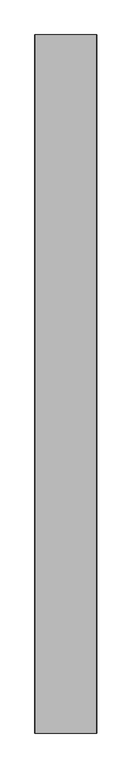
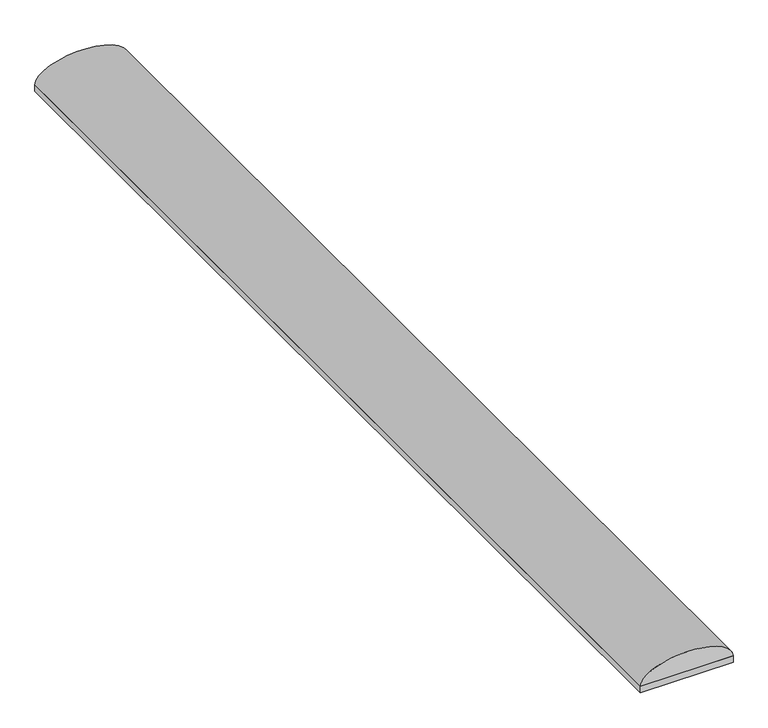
"""IFC4 building model written with IfcOpenShell, lengths in millimetres: proxy geometry, Spinneybeck_ARO Plank 1 : E - 10 1/4 in (26.0 cm)."""

from ifc_helpers import new_model, si_unit, point, frame, origin, origin_with_axes, place, context, project, spatial, polyline, ellipse_curve, trimmed, outline, extrude, source, transform, mapped, element, save
from ifc_brep_helpers import plane_surface, extruded_surface, advanced_brep


def specialty_equipment_eae570ff(model_context):
    return source(origin(), model_context, "Body", "SolidModel", [
        advanced_brep(
        [(130.175, 2946.4, 19.05), (-130.175, 2946.4, 19.05), (130.175, 0.0, 19.05), (-130.175, 0.0, 19.05)],
        [
            (0, 1),
            (1, 0, ellipse_curve(frame((0.0, 2946.4, 19.05), z_axis=(0.0, 1.0, 0.0), x_axis=(-1.0, 0.0, 0.0)), 130.175, 57.15)),
            (2, 3, ellipse_curve(frame((0.0, 0.0, 19.05), z_axis=(0.0, -1.0, 0.0), x_axis=(-1.0, 0.0, 0.0)), 130.175, 57.15)),
            (3, 2),
            (0, 2),
            (3, 1),
        ],
        [
            plane_surface(frame((0.0, 2946.4, 0.0), z_axis=(0.0, 1.0, 0.0), x_axis=(0.0, 0.0, 1.0))),
            plane_surface(frame((0.0, 0.0, 0.0), z_axis=(0.0, -1.0, 0.0), x_axis=(0.0, 0.0, 1.0))),
            plane_surface(frame((130.175, 2946.4, 19.05), z_axis=(0.0, 0.0, -1.0), x_axis=(0.0, -1.0, 0.0))),
            extruded_surface(trimmed(ellipse_curve(frame((0.0, 0.0, 19.05), z_axis=(0.0, 1.0, 0.0), x_axis=(-1.0, 0.0, 0.0)), 130.175, 57.15), [point((-130.175, 0.0, 19.05))], [point((130.175, 0.0, 19.05))], True, "CARTESIAN"), (0.0, 2946.4, 0.0), 2946.4),
        ],
        [
            (0, [[1, 2]]),
            (1, [[3, 4]]),
            (2, [[-1, 5, -4, 6]]),
            (3, [[-2, -6, -3, -5]]),
        ],
    ),
        extrude(outline(polyline([(-130.175, 2946.4), (130.175, 2946.4), (130.175, 0.0), (-130.175, 0.0), (-130.175, 2946.4)])), origin_with_axes(), (0.0, 0.0, 1.0), 19.05),
    ])


if __name__ == "__main__":
    model = new_model("IFC4")
    model_context = context("Model", 3, world=origin())
    ifc_project = project(units=[si_unit("LENGTHUNIT", "METRE", prefix="MILLI")], contexts=[model_context])
    site = spatial("IfcSite", under=ifc_project)
    building = spatial("IfcBuilding", under=site)
    placement = place(None, origin())
    specialty_equipment_shape = specialty_equipment_eae570ff(model_context)
    element("IfcBuildingElementProxy", 1, Name="Spinneybeck_ARO Plank 1 : E - 10 1/4 in (26.0 cm)", ObjectType="Spinneybeck_ARO Plank 1 : E - 10 1/4 in (26.0 cm)", at=placement, inside=building, context=model_context, shape_type="MappedRepresentation", body=[
        mapped(specialty_equipment_shape, transform((0.0, 0.0, 0.0), x_axis=(1.0, 0.0, 0.0), y_axis=(0.0, 1.0, 0.0), z_axis=(0.0, 0.0, 1.0))),
    ])
    save(model, "model.ifc")
